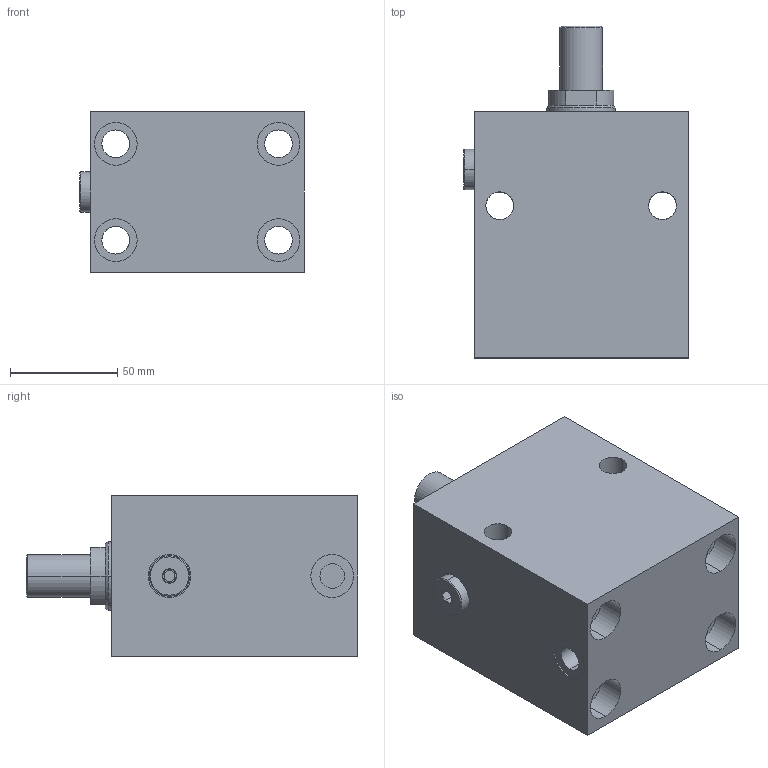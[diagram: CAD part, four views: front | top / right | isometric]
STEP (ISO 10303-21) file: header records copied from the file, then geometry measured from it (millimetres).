
FILE_DESCRIPTION (( 'STEP AP203' ), '1' );
FILE_NAME ('GERMA_Blockzylinder_650-050-020-A.STEP', '2023-08-26T16:17:08', ( '' ), ( '' ), 'SwSTEP 2.0', 'SolidWorks 2016', '' );
FILE_SCHEMA (( 'CONFIG_CONTROL_DESIGN' ));
Length unit declared in the file: millimetre
Products named in the file (3): GH-600-050-ew_GH-650-050-020; GERMA_Blockzylinder_650-050-020-A; Kolben 60x-050_Kolben DU.50-Hub50-AG
Assembly tree (2 placements, depth 2):
  GERMA_Blockzylinder_650-050-020-A
    GH-600-050-ew_GH-650-050-020
    Kolben 60x-050_Kolben DU.50-Hub50-AG
Bounding box: 104.8 x 155 x 75 mm (x, y, z)
Volume: 757565.7 mm3; surface area: 113053.3 mm2
Topology: 2 solids, 2 shells, 135 faces, 313 edges, 193 vertices
Faces by surface type: cylinder 75, plane 39, cone 19, torus 2
Entity records: 4205 total; most frequent: CARTESIAN_POINT 801, DIRECTION 690, ORIENTED_EDGE 618, EDGE_CURVE 309, AXIS2_PLACEMENT_3D 280, VERTEX_POINT 193, EDGE_LOOP 170, CIRCLE 140
